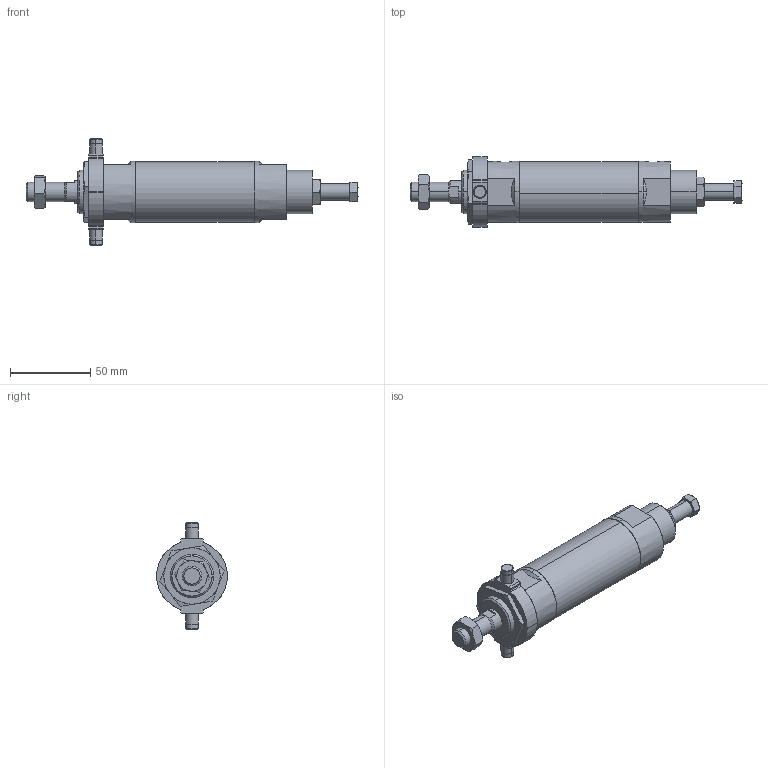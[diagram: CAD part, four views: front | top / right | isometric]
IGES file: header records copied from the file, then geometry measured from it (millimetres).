
Start section: SolidWorks IGES file using analytic representation for surfaces
Global section: file name: C:\Users\Toshiba\Desktop\JGA2-32-25-T.IGS; native system: SolidWorks 2014; preprocessor: SolidWorks 2014; author: Toshiba; date: 160420.130846; units: millimetre
Bounding box: 206.5 x 44 x 66 mm (x, y, z)
Surface area: 33784.3 mm2 (no closed solid volume)
Topology: 0 solids, 0 shells, 163 faces, 2690 edges, 2686 vertices
Faces by surface type: bspline 94, revolution 69
